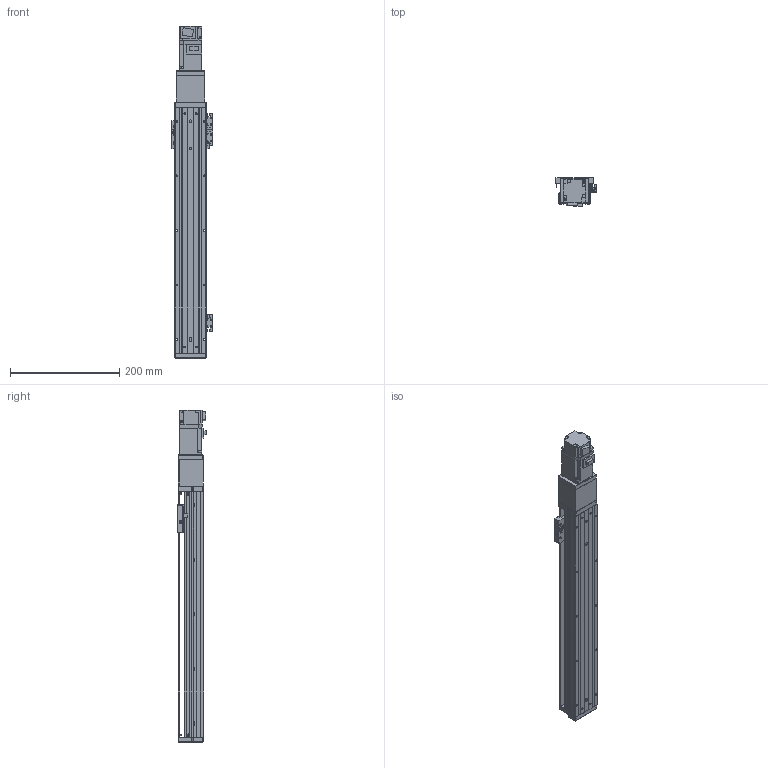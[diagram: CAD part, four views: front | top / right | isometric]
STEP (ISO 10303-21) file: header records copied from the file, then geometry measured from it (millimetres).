
FILE_DESCRIPTION (( 'STEP AP203' ), '1' );
FILE_NAME ('KTHA50-350-BC-M10-C4L.step', '2022-03-19T07:03:05', ( '微软用户' ), ( '微软中国' ), 'SwSTEP 2.0', 'SolidWorks 2020', '' );
FILE_SCHEMA (( 'CONFIG_CONTROL_DESIGN' ));
Length unit declared in the file: millimetre
Products named in the file (18): HG-KR13（三菱）; KTHA50-005; CTHA60-016; KTHA50-350-BC-M10-C4L; GB¨uT 70.2-M3¡Á6_M3¡Á6; CTHA60-021; EE_SX911P_R; GBT 70.3-M3℅6; GBT77-2000 M3×3; CTHA50-027; KTHA50-001_450; GBT 70.1-M3℅6; CTHA50-006-2_CTHA60-006-2; KTHA50-002; CTHA60-017; CTHA50-013; KTHA50-004; GBT 70.1-M4×12
Assembly tree (52 placements, depth 2):
  KTHA50-350-BC-M10-C4L
    KTHA50-001_450
    KTHA50-002
    KTHA50-004
    KTHA50-005
    GB¨uT 70.2-M3¡Á6_M3¡Á6  x6
    EE_SX911P_R  x3
    GBT77-2000 M3×3  x6
    GBT 70.1-M3℅6  x6
    CTHA60-017  x3
    GBT 70.1-M4×12  x10
    CTHA60-016  x2
    CTHA60-021  x2
    GBT 70.3-M3℅6  x6
    CTHA50-027
    CTHA50-006-2_CTHA60-006-2
    CTHA50-013
    HG-KR13（三菱）
Bounding box: 75.22 x 53.3 x 608.6 mm (x, y, z)
Volume: 1031541.3 mm3; surface area: 268798 mm2
Topology: 55 solids, 55 shells, 2146 faces, 5066 edges, 3100 vertices
Faces by surface type: plane 1220, cylinder 506, cone 316, torus 88, sphere 16
Entity records: 34248 total; most frequent: CARTESIAN_POINT 5578, DIRECTION 5510, ORIENTED_EDGE 5204, EDGE_CURVE 2602, AXIS2_PLACEMENT_3D 1845, VECTOR 1820, LINE 1820, VERTEX_POINT 1633
